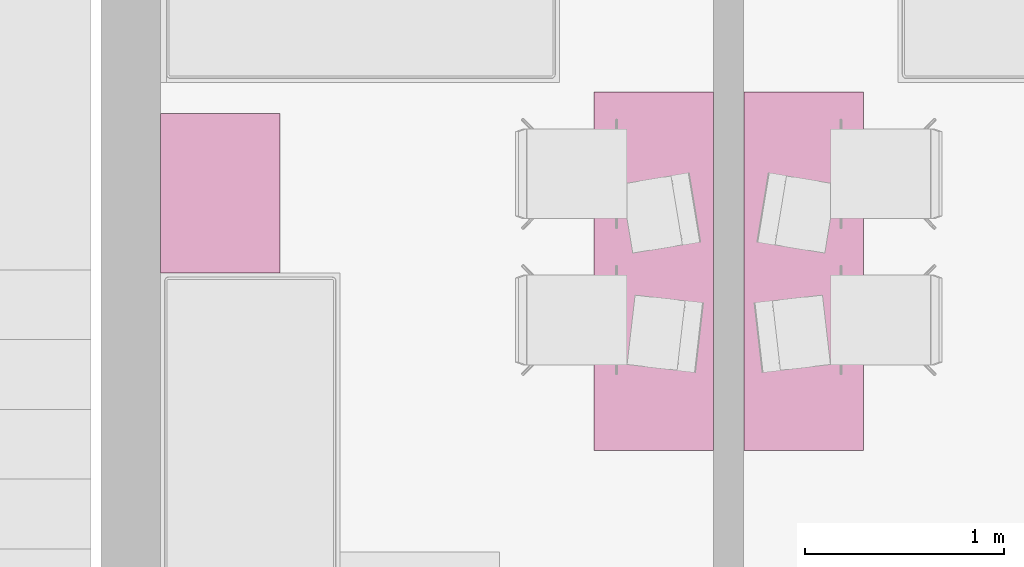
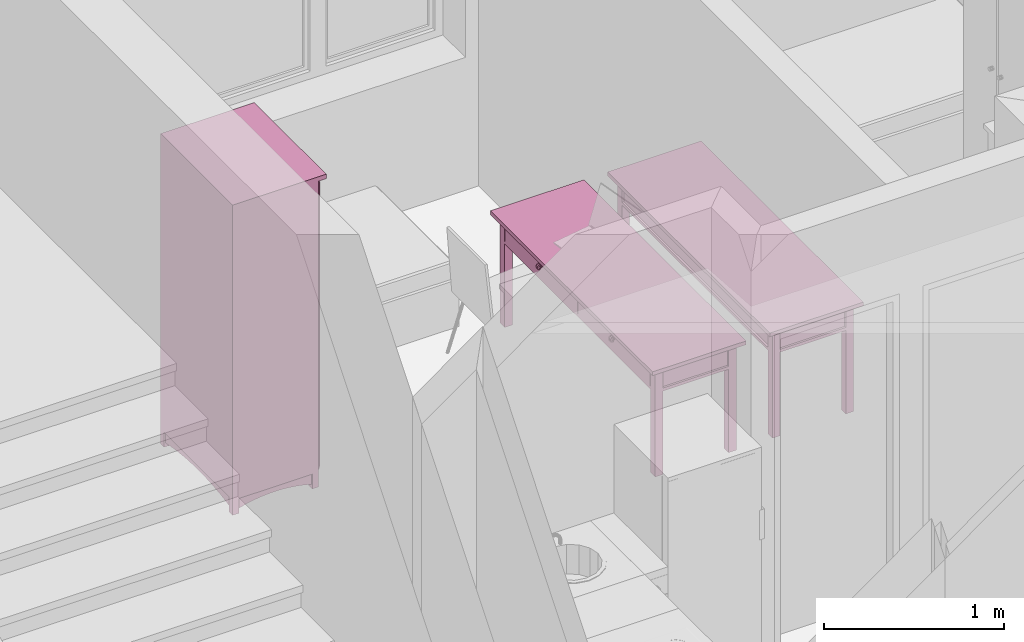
# One storey, part 134 of 172: 3 furnishings.
"""IFC2X3 building model written with IfcOpenShell, lengths in millimetres."""

from ifc_helpers import new_model, entity, si_unit, converted_unit, money_unit, direction, frame, origin_with_axes, place, context, subcontext, project, spatial, faceted_brep, source, transform, mapped, material, material_list, type_object, element, save


model = new_model("IFC2X3")

# Units and contexts
model_context = context("Model", 3, precision=1e-05, world=origin_with_axes(), true_north=direction((0.0, 1.0)))
body_context = subcontext(model_context, "Body", "Model", "MODEL_VIEW")
ifc_project = project(units=[si_unit("LENGTHUNIT", "METRE", prefix="MILLI"), si_unit("AREAUNIT", "SQUARE_METRE"), si_unit("VOLUMEUNIT", "CUBIC_METRE"), converted_unit("PLANEANGLEUNIT", "DEGREE", entity("IfcPlaneAngleMeasure", 0.0174532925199), si_unit("PLANEANGLEUNIT", "RADIAN"), dimensions=[0, 0, 0, 0, 0, 0, 0]), si_unit("SOLIDANGLEUNIT", "STERADIAN"), money_unit("USD"), converted_unit("TIMEUNIT", "Year", entity("IfcTimeMeasure", 31556926.0), si_unit("TIMEUNIT", "SECOND"), dimensions=[0, 0, 0, 0, 0, 0, 0]), si_unit("MASSUNIT", "GRAM"), si_unit("THERMODYNAMICTEMPERATUREUNIT", "DEGREE_CELSIUS"), si_unit("LUMINOUSINTENSITYUNIT", "LUMEN")], contexts=[model_context])

# Site, building, storey
site_placement = place(None, origin_with_axes())
site = spatial("IfcSite", under=ifc_project, at=site_placement, Name="Site", CompositionType="ELEMENT")
building_placement = place(site_placement, origin_with_axes())
building = spatial("IfcBuilding", under=site, at=building_placement, Name="Building", CompositionType="ELEMENT")
storey_placement = place(building_placement, frame((0.0, 0.0, 3200.0), z_axis=(0.0, 0.0, 1.0), x_axis=(1.0, 0.0, 0.0)))
storey = spatial("IfcBuildingStorey", under=building, at=storey_placement, Name="3KORRUS", CompositionType="ELEMENT", Elevation=3200.0)

# Furnishings
ifc_material = material(Name="Background")
ifc_material_list = material_list([ifc_material])
furnishing_element_type_1 = type_object("IfcFurnishingElementType", Name="Cupboard 19")
shared_shape_1 = source(origin_with_axes(), body_context, "Body", "Brep", [
    faceted_brep([(780.0, 600.0, 120.0), (780.0, 600.0, 2050.0), (780.0, 580.0, 2050.0), (780.0, 580.0, 120.0), (20.0, 600.0, 120.0), (20.0, 600.0, 2050.0), (20.0, 580.0, 2050.0), (20.0, 580.0, 120.0)], [[[0, 1, 2, 3]], [[4, 5, 1, 0]], [[1, 5, 6, 2]], [[3, 2, 6, 7]], [[0, 3, 7, 4]], [[7, 6, 5, 4]]]),
    faceted_brep([(0.0, 50.0, 100.0), (0.0, 600.0, 100.0), (20.0, 600.0, 100.0), (20.0, 50.0, 100.0), (0.0, 50.0, 2070.0), (0.0, 600.0, 2070.0), (20.0, 600.0, 2070.0), (20.0, 50.0, 2070.0)], [[[0, 1, 2, 3]], [[0, 4, 5, 1]], [[1, 5, 6, 2]], [[2, 6, 7, 3]], [[3, 7, 4, 0]], [[7, 6, 5, 4]]]),
    faceted_brep([(780.0, 50.0, 100.0), (780.0, 600.0, 100.0), (800.0, 600.0, 100.0), (800.0, 50.0, 100.0), (780.0, 50.0, 2070.0), (780.0, 600.0, 2070.0), (800.0, 600.0, 2070.0), (800.0, 50.0, 2070.0)], [[[0, 1, 2, 3]], [[0, 4, 5, 1]], [[1, 5, 6, 2]], [[2, 6, 7, 3]], [[3, 7, 4, 0]], [[7, 6, 5, 4]]]),
    faceted_brep([(20.0, 50.0, 100.0), (20.0, 600.0, 100.0), (780.0, 600.0, 100.0), (780.0, 50.0, 100.0), (20.0, 50.0, 120.0), (20.0, 600.0, 120.0), (780.0, 600.0, 120.0), (780.0, 50.0, 120.0)], [[[0, 1, 2, 3]], [[0, 4, 5, 1]], [[1, 5, 6, 2]], [[2, 6, 7, 3]], [[3, 7, 4, 0]], [[7, 6, 5, 4]]]),
    faceted_brep([(20.0, 50.0, 2050.0), (20.0, 600.0, 2050.0), (780.0, 600.0, 2050.0), (780.0, 50.0, 2050.0), (20.0, 50.0, 2070.0), (20.0, 600.0, 2070.0), (780.0, 600.0, 2070.0), (780.0, 50.0, 2070.0)], [[[0, 1, 2, 3]], [[0, 4, 5, 1]], [[1, 5, 6, 2]], [[2, 6, 7, 3]], [[3, 7, 4, 0]], [[7, 6, 5, 4]]]),
    faceted_brep([(0.0, 600.0, 2070.0), (0.0, 0.0, 2070.0), (0.0, 0.0, 2100.0), (0.0, 600.0, 2100.0), (800.0, 600.0, 2070.0), (800.0, 0.0, 2070.0), (800.0, 0.0, 2100.0), (800.0, 600.0, 2100.0)], [[[0, 1, 2, 3]], [[0, 4, 5, 1]], [[1, 5, 6, 2]], [[3, 2, 6, 7]], [[4, 0, 3, 7]], [[5, 4, 7, 6]]]),
    faceted_brep([(760.0, 590.0, 25.0), (760.0, 570.0, 25.0), (640.962, 570.0, 45.8), (640.962, 590.0, 45.8), (760.0, 590.0, 100.0), (760.0, 570.0, 100.0), (40.0, 570.0, 100.0), (40.0, 570.0, 25.0), (159.038, 570.0, 45.8), (279.23, 570.0, 58.32), (400.0, 570.0, 62.5), (520.77, 570.0, 58.32), (520.77, 590.0, 58.32), (400.0, 590.0, 62.5), (279.23, 590.0, 58.32), (159.038, 590.0, 45.8), (40.0, 590.0, 25.0), (40.0, 590.0, 100.0)], [[[0, 1, 2, 3]], [[4, 5, 1, 0]], [[1, 5, 6, 7, 8, 9, 10, 11, 2]], [[3, 2, 11, 12]], [[0, 3, 12, 13, 14, 15, 16, 17, 4]], [[17, 6, 5, 4]], [[16, 7, 6, 17]], [[15, 8, 7, 16]], [[14, 9, 8, 15]], [[13, 10, 9, 14]], [[12, 11, 10, 13]]]),
    faceted_brep([(760.0, 80.0, 25.0), (760.0, 60.0, 25.0), (640.962, 60.0, 45.8), (640.962, 80.0, 45.8), (760.0, 80.0, 100.0), (760.0, 60.0, 100.0), (40.0, 60.0, 100.0), (40.0, 60.0, 25.0), (159.038, 60.0, 45.8), (279.23, 60.0, 58.32), (400.0, 60.0, 62.5), (520.77, 60.0, 58.32), (520.77, 80.0, 58.32), (400.0, 80.0, 62.5), (279.23, 80.0, 58.32), (159.038, 80.0, 45.8), (40.0, 80.0, 25.0), (40.0, 80.0, 100.0)], [[[0, 1, 2, 3]], [[4, 5, 1, 0]], [[1, 5, 6, 7, 8, 9, 10, 11, 2]], [[3, 2, 11, 12]], [[0, 3, 12, 13, 14, 15, 16, 17, 4]], [[17, 6, 5, 4]], [[16, 7, 6, 17]], [[15, 8, 7, 16]], [[14, 9, 8, 15]], [[13, 10, 9, 14]], [[12, 11, 10, 13]]]),
    faceted_brep([(790.0, 90.0, 25.0), (770.0, 90.0, 25.0), (770.0, 141.266, 38.072), (790.0, 141.266, 38.072), (790.0, 90.0, 100.0), (770.0, 90.0, 100.0), (770.0, 560.0, 100.0), (770.0, 560.0, 25.0), (770.0, 508.734, 38.072), (770.0, 456.752, 47.92), (770.0, 404.257, 54.508), (770.0, 351.453, 57.808), (770.0, 298.547, 57.808), (770.0, 245.743, 54.508), (770.0, 193.248, 47.92), (790.0, 193.248, 47.92), (790.0, 245.743, 54.508), (790.0, 298.547, 57.808), (790.0, 351.453, 57.808), (790.0, 404.257, 54.508), (790.0, 456.752, 47.92), (790.0, 508.734, 38.072), (790.0, 560.0, 25.0), (790.0, 560.0, 100.0)], [[[0, 1, 2, 3]], [[4, 5, 1, 0]], [[1, 5, 6, 7, 8, 9, 10, 11, 12, 13, 14, 2]], [[3, 2, 14, 15]], [[0, 3, 15, 16, 17, 18, 19, 20, 21, 22, 23, 4]], [[23, 6, 5, 4]], [[22, 7, 6, 23]], [[21, 8, 7, 22]], [[20, 9, 8, 21]], [[19, 10, 9, 20]], [[18, 11, 10, 19]], [[17, 12, 11, 18]], [[16, 13, 12, 17]], [[15, 14, 13, 16]]]),
    faceted_brep([(30.0, 90.0, 25.0), (10.0, 90.0, 25.0), (10.0, 141.266, 38.072), (30.0, 141.266, 38.072), (30.0, 90.0, 100.0), (10.0, 90.0, 100.0), (10.0, 560.0, 100.0), (10.0, 560.0, 25.0), (10.0, 508.734, 38.072), (10.0, 456.752, 47.92), (10.0, 404.257, 54.508), (10.0, 351.453, 57.808), (10.0, 298.547, 57.808), (10.0, 245.743, 54.508), (10.0, 193.248, 47.92), (30.0, 193.248, 47.92), (30.0, 245.743, 54.508), (30.0, 298.547, 57.808), (30.0, 351.453, 57.808), (30.0, 404.257, 54.508), (30.0, 456.752, 47.92), (30.0, 508.734, 38.072), (30.0, 560.0, 25.0), (30.0, 560.0, 100.0)], [[[0, 1, 2, 3]], [[4, 5, 1, 0]], [[1, 5, 6, 7, 8, 9, 10, 11, 12, 13, 14, 2]], [[3, 2, 14, 15]], [[0, 3, 15, 16, 17, 18, 19, 20, 21, 22, 23, 4]], [[23, 6, 5, 4]], [[22, 7, 6, 23]], [[21, 8, 7, 22]], [[20, 9, 8, 21]], [[19, 10, 9, 20]], [[18, 11, 10, 19]], [[17, 12, 11, 18]], [[16, 13, 12, 17]], [[15, 14, 13, 16]]]),
    faceted_brep([(760.0, 560.0, 0.0), (760.0, 560.0, 100.0), (760.0, 600.0, 100.0), (760.0, 600.0, 0.0), (800.0, 560.0, 0.0), (800.0, 560.0, 100.0), (800.0, 600.0, 100.0), (800.0, 600.0, 0.0)], [[[0, 1, 2, 3]], [[4, 5, 1, 0]], [[1, 5, 6, 2]], [[3, 2, 6, 7]], [[0, 3, 7, 4]], [[7, 6, 5, 4]]]),
    faceted_brep([(0.0, 560.0, 0.0), (0.0, 560.0, 100.0), (0.0, 600.0, 100.0), (0.0, 600.0, 0.0), (40.0, 560.0, 0.0), (40.0, 560.0, 100.0), (40.0, 600.0, 100.0), (40.0, 600.0, 0.0)], [[[0, 1, 2, 3]], [[4, 5, 1, 0]], [[1, 5, 6, 2]], [[3, 2, 6, 7]], [[0, 3, 7, 4]], [[7, 6, 5, 4]]]),
    faceted_brep([(760.0, 50.0, 0.0), (760.0, 50.0, 100.0), (760.0, 90.0, 100.0), (760.0, 90.0, 0.0), (800.0, 50.0, 0.0), (800.0, 50.0, 100.0), (800.0, 90.0, 100.0), (800.0, 90.0, 0.0)], [[[0, 1, 2, 3]], [[4, 5, 1, 0]], [[1, 5, 6, 2]], [[3, 2, 6, 7]], [[0, 3, 7, 4]], [[7, 6, 5, 4]]]),
    faceted_brep([(0.0, 50.0, 0.0), (0.0, 50.0, 100.0), (0.0, 90.0, 100.0), (0.0, 90.0, 0.0), (40.0, 50.0, 0.0), (40.0, 50.0, 100.0), (40.0, 90.0, 100.0), (40.0, 90.0, 0.0)], [[[0, 1, 2, 3]], [[4, 5, 1, 0]], [[1, 5, 6, 2]], [[3, 2, 6, 7]], [[0, 3, 7, 4]], [[7, 6, 5, 4]]]),
    faceted_brep([(780.0, 580.0, 587.5), (780.0, 580.0, 607.5), (780.0, 50.0, 607.5), (780.0, 50.0, 587.5), (20.0, 580.0, 587.5), (20.0, 580.0, 607.5), (20.0, 50.0, 607.5), (20.0, 50.0, 587.5)], [[[0, 1, 2, 3]], [[4, 5, 1, 0]], [[1, 5, 6, 2]], [[3, 2, 6, 7]], [[0, 3, 7, 4]], [[7, 6, 5, 4]]]),
    faceted_brep([(780.0, 580.0, 1075.0), (780.0, 580.0, 1095.0), (780.0, 50.0, 1095.0), (780.0, 50.0, 1075.0), (20.0, 580.0, 1075.0), (20.0, 580.0, 1095.0), (20.0, 50.0, 1095.0), (20.0, 50.0, 1075.0)], [[[0, 1, 2, 3]], [[4, 5, 1, 0]], [[1, 5, 6, 2]], [[3, 2, 6, 7]], [[0, 3, 7, 4]], [[7, 6, 5, 4]]]),
    faceted_brep([(780.0, 580.0, 1562.5), (780.0, 580.0, 1582.5), (780.0, 50.0, 1582.5), (780.0, 50.0, 1562.5), (20.0, 580.0, 1562.5), (20.0, 580.0, 1582.5), (20.0, 50.0, 1582.5), (20.0, 50.0, 1562.5)], [[[0, 1, 2, 3]], [[4, 5, 1, 0]], [[1, 5, 6, 2]], [[3, 2, 6, 7]], [[0, 3, 7, 4]], [[7, 6, 5, 4]]]),
    faceted_brep([(789.5, 50.0, 110.5), (400.5, 50.0, 110.5), (400.5, 50.0, 2059.5), (789.5, 50.0, 2059.5), (789.5, 40.0, 110.5), (400.5, 40.0, 110.5), (400.5, 40.0, 2059.5), (789.5, 40.0, 2059.5), (779.5, 30.0, 120.5), (410.5, 30.0, 120.5), (410.5, 30.0, 2049.5), (779.5, 30.0, 2049.5)], [[[0, 1, 2, 3]], [[0, 4, 5, 1]], [[1, 5, 6, 2]], [[2, 6, 7, 3]], [[3, 7, 4, 0]], [[4, 8, 9, 5]], [[5, 9, 10, 6]], [[6, 10, 11, 7]], [[7, 11, 8, 4]], [[10, 9, 8, 11]]]),
    faceted_brep([(399.5, 50.0, 110.5), (10.5, 50.0, 110.5), (10.5, 50.0, 2059.5), (399.5, 50.0, 2059.5), (399.5, 40.0, 110.5), (10.5, 40.0, 110.5), (10.5, 40.0, 2059.5), (399.5, 40.0, 2059.5), (389.5, 30.0, 120.5), (20.5, 30.0, 120.5), (20.5, 30.0, 2049.5), (389.5, 30.0, 2049.5)], [[[0, 1, 2, 3]], [[0, 4, 5, 1]], [[1, 5, 6, 2]], [[2, 6, 7, 3]], [[3, 7, 4, 0]], [[4, 8, 9, 5]], [[5, 9, 10, 6]], [[6, 10, 11, 7]], [[7, 11, 8, 4]], [[10, 9, 8, 11]]]),
    faceted_brep([(339.608, 30.0, 954.0), (338.0, 30.0, 960.0), (339.608, 30.0, 966.0), (344.0, 30.0, 970.392), (350.0, 30.0, 972.0), (356.0, 30.0, 970.392), (360.392, 30.0, 966.0), (362.0, 30.0, 960.0), (360.392, 30.0, 954.0), (356.0, 30.0, 949.608), (350.0, 30.0, 948.0), (344.0, 30.0, 949.608), (339.608, 5.0, 954.0), (338.0, 5.0, 960.0), (339.608, 5.0, 966.0), (344.0, 5.0, 970.392), (350.0, 5.0, 972.0), (356.0, 5.0, 970.392), (360.392, 5.0, 966.0), (362.0, 5.0, 960.0), (360.392, 5.0, 954.0), (356.0, 5.0, 949.608), (350.0, 5.0, 948.0), (344.0, 5.0, 949.608)], [[[0, 1, 2, 3, 4, 5, 6, 7, 8, 9, 10, 11]], [[0, 12, 13, 1]], [[1, 13, 14, 2]], [[2, 14, 15, 3]], [[3, 15, 16, 4]], [[4, 16, 17, 5]], [[5, 17, 18, 6]], [[6, 18, 19, 7]], [[7, 19, 20, 8]], [[8, 20, 21, 9]], [[9, 21, 22, 10]], [[10, 22, 23, 11]], [[11, 23, 12, 0]], [[12, 23, 22, 21, 20, 19, 18, 17, 16, 15, 14, 13]]]),
    faceted_brep([(460.392, 30.0, 954.0), (456.0, 30.0, 949.608), (450.0, 30.0, 948.0), (444.0, 30.0, 949.608), (439.608, 30.0, 954.0), (438.0, 30.0, 960.0), (439.608, 30.0, 966.0), (444.0, 30.0, 970.392), (450.0, 30.0, 972.0), (456.0, 30.0, 970.392), (460.392, 30.0, 966.0), (462.0, 30.0, 960.0), (460.392, 5.0, 954.0), (456.0, 5.0, 949.608), (450.0, 5.0, 948.0), (444.0, 5.0, 949.608), (439.608, 5.0, 954.0), (438.0, 5.0, 960.0), (439.608, 5.0, 966.0), (444.0, 5.0, 970.392), (450.0, 5.0, 972.0), (456.0, 5.0, 970.392), (460.392, 5.0, 966.0), (462.0, 5.0, 960.0)], [[[0, 1, 2, 3, 4, 5, 6, 7, 8, 9, 10, 11]], [[1, 0, 12, 13]], [[2, 1, 13, 14]], [[3, 2, 14, 15]], [[4, 3, 15, 16]], [[5, 4, 16, 17]], [[6, 5, 17, 18]], [[7, 6, 18, 19]], [[8, 7, 19, 20]], [[9, 8, 20, 21]], [[10, 9, 21, 22]], [[11, 10, 22, 23]], [[0, 11, 23, 12]], [[12, 23, 22, 21, 20, 19, 18, 17, 16, 15, 14, 13]]]),
])
furnishing_1_placement = place(storey_placement, frame((-5390.29670331, -7216.37850445, 0.0), z_axis=(0.0, 0.0, 1.0), x_axis=(0.0, 1.0, 0.0)))
element("IfcFurnishingElement", 1, at=furnishing_1_placement, inside=storey, type_object=furnishing_element_type_1, material=ifc_material_list, Name="FU - 014", context=body_context, shape_type="MappedRepresentation", body=[
    mapped(shared_shape_1, transform((0.0, 0.0, 0.0))),
])
furnishing_element_type_2 = type_object("IfcFurnishingElementType", Name="Rectangular Table 01 19")
shared_shape_2 = source(origin_with_axes(), body_context, "Body", "Brep", [
    faceted_brep([(-90.0, 40.0, 0.0), (-90.0, 90.0, 0.0), (-40.0, 90.0, 0.0), (-40.0, 40.0, 0.0), (-90.0, 40.0, 725.0), (-90.0, 90.0, 725.0), (-40.0, 90.0, 725.0), (-40.0, 40.0, 725.0)], [[[0, 1, 2, 3]], [[0, 4, 5, 1]], [[1, 5, 6, 2]], [[2, 6, 7, 3]], [[3, 7, 4, 0]], [[7, 6, 5, 4]]]),
    faceted_brep([(-1760.0, 40.0, 0.0), (-1760.0, 90.0, 0.0), (-1710.0, 90.0, 0.0), (-1710.0, 40.0, 0.0), (-1760.0, 40.0, 725.0), (-1760.0, 90.0, 725.0), (-1710.0, 90.0, 725.0), (-1710.0, 40.0, 725.0)], [[[0, 1, 2, 3]], [[0, 4, 5, 1]], [[1, 5, 6, 2]], [[2, 6, 7, 3]], [[3, 7, 4, 0]], [[7, 6, 5, 4]]]),
    faceted_brep([(-90.0, 510.0, 0.0), (-90.0, 560.0, 0.0), (-40.0, 560.0, 0.0), (-40.0, 510.0, 0.0), (-90.0, 510.0, 725.0), (-90.0, 560.0, 725.0), (-40.0, 560.0, 725.0), (-40.0, 510.0, 725.0)], [[[0, 1, 2, 3]], [[0, 4, 5, 1]], [[1, 5, 6, 2]], [[2, 6, 7, 3]], [[3, 7, 4, 0]], [[7, 6, 5, 4]]]),
    faceted_brep([(-1760.0, 510.0, 0.0), (-1760.0, 560.0, 0.0), (-1710.0, 560.0, 0.0), (-1710.0, 510.0, 0.0), (-1760.0, 510.0, 725.0), (-1760.0, 560.0, 725.0), (-1710.0, 560.0, 725.0), (-1710.0, 510.0, 725.0)], [[[0, 1, 2, 3]], [[0, 4, 5, 1]], [[1, 5, 6, 2]], [[2, 6, 7, 3]], [[3, 7, 4, 0]], [[7, 6, 5, 4]]]),
    faceted_brep([(-1760.0, 40.0, 565.0), (-1760.0, 560.0, 565.0), (-40.0, 560.0, 565.0), (-40.0, 40.0, 565.0), (-1760.0, 40.0, 585.0), (-1760.0, 560.0, 585.0), (-40.0, 560.0, 585.0), (-40.0, 40.0, 585.0)], [[[0, 1, 2, 3]], [[0, 4, 5, 1]], [[1, 5, 6, 2]], [[2, 6, 7, 3]], [[3, 7, 4, 0]], [[7, 6, 5, 4]]]),
    faceted_brep([(-1710.0, 52.5, 585.0), (-1710.0, 77.5, 585.0), (-90.0, 77.5, 585.0), (-90.0, 52.5, 585.0), (-1710.0, 52.5, 745.0), (-1710.0, 77.5, 745.0), (-90.0, 77.5, 745.0), (-90.0, 52.5, 745.0)], [[[0, 1, 2, 3]], [[0, 4, 5, 1]], [[1, 5, 6, 2]], [[2, 6, 7, 3]], [[3, 7, 4, 0]], [[7, 6, 5, 4]]]),
    faceted_brep([(-77.5, 90.0, 585.0), (-77.5, 510.0, 585.0), (-52.5, 510.0, 585.0), (-52.5, 90.0, 585.0), (-77.5, 90.0, 745.0), (-77.5, 510.0, 745.0), (-52.5, 510.0, 745.0), (-52.5, 90.0, 745.0)], [[[0, 1, 2, 3]], [[0, 4, 5, 1]], [[1, 5, 6, 2]], [[2, 6, 7, 3]], [[3, 7, 4, 0]], [[7, 6, 5, 4]]]),
    faceted_brep([(-90.0, 547.5, 585.0), (-90.0, 522.5, 585.0), (-1710.0, 522.5, 585.0), (-1710.0, 547.5, 585.0), (-90.0, 547.5, 745.0), (-90.0, 522.5, 745.0), (-1710.0, 522.5, 745.0), (-1710.0, 547.5, 745.0)], [[[0, 1, 2, 3]], [[0, 4, 5, 1]], [[1, 5, 6, 2]], [[2, 6, 7, 3]], [[3, 7, 4, 0]], [[7, 6, 5, 4]]]),
    faceted_brep([(-1722.5, 510.0, 585.0), (-1722.5, 90.0, 585.0), (-1747.5, 90.0, 585.0), (-1747.5, 510.0, 585.0), (-1722.5, 510.0, 745.0), (-1722.5, 90.0, 745.0), (-1747.5, 90.0, 745.0), (-1747.5, 510.0, 745.0)], [[[0, 1, 2, 3]], [[0, 4, 5, 1]], [[1, 5, 6, 2]], [[2, 6, 7, 3]], [[3, 7, 4, 0]], [[7, 6, 5, 4]]]),
    faceted_brep([(-897.5, 40.0, 585.0), (-897.5, 60.0, 585.0), (-95.0, 60.0, 585.0), (-95.0, 40.0, 585.0), (-897.5, 40.0, 745.0), (-897.5, 60.0, 745.0), (-95.0, 60.0, 745.0), (-95.0, 40.0, 745.0)], [[[0, 1, 2, 3]], [[0, 4, 5, 1]], [[1, 5, 6, 2]], [[2, 6, 7, 3]], [[3, 7, 4, 0]], [[7, 6, 5, 4]]]),
    faceted_brep([(-1705.0, 40.0, 585.0), (-1705.0, 60.0, 585.0), (-902.5, 60.0, 585.0), (-902.5, 40.0, 585.0), (-1705.0, 40.0, 745.0), (-1705.0, 60.0, 745.0), (-902.5, 60.0, 745.0), (-902.5, 40.0, 745.0)], [[[0, 1, 2, 3]], [[0, 4, 5, 1]], [[1, 5, 6, 2]], [[2, 6, 7, 3]], [[3, 7, 4, 0]], [[7, 6, 5, 4]]]),
    faceted_brep([(-504.91, 40.0, 660.0), (-506.25, 40.0, 665.0), (-504.91, 40.0, 670.0), (-501.25, 40.0, 673.66), (-496.25, 40.0, 675.0), (-491.25, 40.0, 673.66), (-487.59, 40.0, 670.0), (-486.25, 40.0, 665.0), (-487.59, 40.0, 660.0), (-491.25, 40.0, 656.34), (-496.25, 40.0, 655.0), (-501.25, 40.0, 656.34), (-504.91, 25.0, 660.0), (-506.25, 25.0, 665.0), (-504.91, 25.0, 670.0), (-501.25, 25.0, 673.66), (-496.25, 25.0, 675.0), (-491.25, 25.0, 673.66), (-487.59, 25.0, 670.0), (-486.25, 25.0, 665.0), (-487.59, 25.0, 660.0), (-491.25, 25.0, 656.34), (-496.25, 25.0, 655.0), (-501.25, 25.0, 656.34)], [[[0, 1, 2, 3, 4, 5, 6, 7, 8, 9, 10, 11]], [[0, 12, 13, 1]], [[1, 13, 14, 2]], [[2, 14, 15, 3]], [[3, 15, 16, 4]], [[4, 16, 17, 5]], [[5, 17, 18, 6]], [[6, 18, 19, 7]], [[7, 19, 20, 8]], [[8, 20, 21, 9]], [[9, 21, 22, 10]], [[10, 22, 23, 11]], [[11, 23, 12, 0]], [[12, 23, 22, 21, 20, 19, 18, 17, 16, 15, 14, 13]]]),
    faceted_brep([(-506.25, 12.01, 665.0), (-504.91, 12.01, 660.0), (-496.25, 10.0, 665.0), (-513.571, 17.5, 665.0), (-511.25, 17.5, 656.34), (-501.25, 12.01, 656.34), (-504.91, 12.01, 670.0), (-516.25, 25.0, 665.0), (-513.571, 25.0, 655.0), (-504.91, 17.5, 650.0), (-511.25, 17.5, 673.66), (-496.25, 12.01, 655.0), (-501.25, 12.01, 673.66), (-513.571, 25.0, 675.0), (-506.25, 25.0, 682.321), (-496.25, 25.0, 685.0), (-486.25, 25.0, 682.321), (-478.929, 25.0, 675.0), (-476.25, 25.0, 665.0), (-478.929, 25.0, 655.0), (-486.25, 25.0, 647.679), (-496.25, 25.0, 645.0), (-506.25, 25.0, 647.679), (-496.25, 17.5, 647.679), (-504.91, 17.5, 680.0), (-491.25, 12.01, 656.34), (-496.25, 12.01, 675.0), (-496.25, 17.5, 682.321), (-487.59, 17.5, 680.0), (-481.25, 17.5, 673.66), (-478.929, 17.5, 665.0), (-481.25, 17.5, 656.34), (-487.59, 17.5, 650.0), (-487.59, 12.01, 660.0), (-491.25, 12.01, 673.66), (-487.59, 12.01, 670.0), (-486.25, 12.01, 665.0)], [[[0, 1, 2]], [[3, 4, 1, 0]], [[1, 5, 2]], [[6, 0, 2]], [[7, 8, 4, 3]], [[4, 9, 5, 1]], [[10, 3, 0, 6]], [[5, 11, 2]], [[12, 6, 2]], [[8, 7, 13, 14, 15, 16, 17, 18, 19, 20, 21, 22]], [[8, 22, 9, 4]], [[13, 7, 3, 10]], [[9, 23, 11, 5]], [[24, 10, 6, 12]], [[11, 25, 2]], [[26, 12, 2]], [[14, 13, 10, 24]], [[15, 14, 24, 27]], [[16, 15, 27, 28]], [[17, 16, 28, 29]], [[18, 17, 29, 30]], [[19, 18, 30, 31]], [[20, 19, 31, 32]], [[21, 20, 32, 23]], [[22, 21, 23, 9]], [[23, 32, 25, 11]], [[27, 24, 12, 26]], [[25, 33, 2]], [[34, 26, 2]], [[28, 27, 26, 34]], [[29, 28, 34, 35]], [[30, 29, 35, 36]], [[31, 30, 36, 33]], [[32, 31, 33, 25]], [[33, 36, 2]], [[35, 34, 2]], [[36, 35, 2]]]),
    faceted_brep([(-1312.41, 40.0, 660.0), (-1313.75, 40.0, 665.0), (-1312.41, 40.0, 670.0), (-1308.75, 40.0, 673.66), (-1303.75, 40.0, 675.0), (-1298.75, 40.0, 673.66), (-1295.09, 40.0, 670.0), (-1293.75, 40.0, 665.0), (-1295.09, 40.0, 660.0), (-1298.75, 40.0, 656.34), (-1303.75, 40.0, 655.0), (-1308.75, 40.0, 656.34), (-1312.41, 25.0, 660.0), (-1313.75, 25.0, 665.0), (-1312.41, 25.0, 670.0), (-1308.75, 25.0, 673.66), (-1303.75, 25.0, 675.0), (-1298.75, 25.0, 673.66), (-1295.09, 25.0, 670.0), (-1293.75, 25.0, 665.0), (-1295.09, 25.0, 660.0), (-1298.75, 25.0, 656.34), (-1303.75, 25.0, 655.0), (-1308.75, 25.0, 656.34)], [[[0, 1, 2, 3, 4, 5, 6, 7, 8, 9, 10, 11]], [[0, 12, 13, 1]], [[1, 13, 14, 2]], [[2, 14, 15, 3]], [[3, 15, 16, 4]], [[4, 16, 17, 5]], [[5, 17, 18, 6]], [[6, 18, 19, 7]], [[7, 19, 20, 8]], [[8, 20, 21, 9]], [[9, 21, 22, 10]], [[10, 22, 23, 11]], [[11, 23, 12, 0]], [[12, 23, 22, 21, 20, 19, 18, 17, 16, 15, 14, 13]]]),
    faceted_brep([(-1313.75, 12.01, 665.0), (-1312.41, 12.01, 660.0), (-1303.75, 10.0, 665.0), (-1321.071, 17.5, 665.0), (-1318.75, 17.5, 656.34), (-1308.75, 12.01, 656.34), (-1312.41, 12.01, 670.0), (-1323.75, 25.0, 665.0), (-1321.071, 25.0, 655.0), (-1312.41, 17.5, 650.0), (-1318.75, 17.5, 673.66), (-1303.75, 12.01, 655.0), (-1308.75, 12.01, 673.66), (-1321.071, 25.0, 675.0), (-1313.75, 25.0, 682.321), (-1303.75, 25.0, 685.0), (-1293.75, 25.0, 682.321), (-1286.429, 25.0, 675.0), (-1283.75, 25.0, 665.0), (-1286.429, 25.0, 655.0), (-1293.75, 25.0, 647.679), (-1303.75, 25.0, 645.0), (-1313.75, 25.0, 647.679), (-1303.75, 17.5, 647.679), (-1312.41, 17.5, 680.0), (-1298.75, 12.01, 656.34), (-1303.75, 12.01, 675.0), (-1303.75, 17.5, 682.321), (-1295.09, 17.5, 680.0), (-1288.75, 17.5, 673.66), (-1286.429, 17.5, 665.0), (-1288.75, 17.5, 656.34), (-1295.09, 17.5, 650.0), (-1295.09, 12.01, 660.0), (-1298.75, 12.01, 673.66), (-1295.09, 12.01, 670.0), (-1293.75, 12.01, 665.0)], [[[0, 1, 2]], [[3, 4, 1, 0]], [[1, 5, 2]], [[6, 0, 2]], [[7, 8, 4, 3]], [[4, 9, 5, 1]], [[10, 3, 0, 6]], [[5, 11, 2]], [[12, 6, 2]], [[8, 7, 13, 14, 15, 16, 17, 18, 19, 20, 21, 22]], [[8, 22, 9, 4]], [[13, 7, 3, 10]], [[9, 23, 11, 5]], [[24, 10, 6, 12]], [[11, 25, 2]], [[26, 12, 2]], [[14, 13, 10, 24]], [[15, 14, 24, 27]], [[16, 15, 27, 28]], [[17, 16, 28, 29]], [[18, 17, 29, 30]], [[19, 18, 30, 31]], [[20, 19, 31, 32]], [[21, 20, 32, 23]], [[22, 21, 23, 9]], [[23, 32, 25, 11]], [[27, 24, 12, 26]], [[25, 33, 2]], [[34, 26, 2]], [[28, 27, 26, 34]], [[29, 28, 34, 35]], [[30, 29, 35, 36]], [[31, 30, 36, 33]], [[32, 31, 33, 25]], [[33, 36, 2]], [[35, 34, 2]], [[36, 35, 2]]]),
    faceted_brep([(-1800.0, 0.0, 725.0), (-1800.0, 600.0, 725.0), (0.0, 600.0, 725.0), (0.0, 0.0, 725.0), (-1800.0, 0.0, 750.0), (-1800.0, 600.0, 750.0), (0.0, 600.0, 750.0), (0.0, 0.0, 750.0)], [[[0, 1, 2, 3]], [[0, 4, 5, 1]], [[1, 5, 6, 2]], [[2, 6, 7, 3]], [[3, 7, 4, 0]], [[7, 6, 5, 4]]]),
])
furnishing_2_placement = place(storey_placement, frame((-2464.84988372, -6307.76701594, 0.0), z_axis=(0.0, 0.0, 1.0), x_axis=(0.0, 1.0, 0.0)))
element("IfcFurnishingElement", 2, at=furnishing_2_placement, inside=storey, type_object=furnishing_element_type_2, material=ifc_material_list, Name="FU - 011", context=body_context, shape_type="MappedRepresentation", body=[
    mapped(shared_shape_2, transform((0.0, 0.0, 0.0))),
])
shared_shape_3 = source(origin_with_axes(), body_context, "Body", "Brep", [
    faceted_brep([(90.0, 40.0, 0.0), (40.0, 40.0, 0.0), (40.0, 90.0, 0.0), (90.0, 90.0, 0.0), (90.0, 40.0, 725.0), (40.0, 40.0, 725.0), (40.0, 90.0, 725.0), (90.0, 90.0, 725.0)], [[[0, 1, 2, 3]], [[1, 0, 4, 5]], [[2, 1, 5, 6]], [[3, 2, 6, 7]], [[0, 3, 7, 4]], [[5, 4, 7, 6]]]),
    faceted_brep([(1760.0, 40.0, 0.0), (1710.0, 40.0, 0.0), (1710.0, 90.0, 0.0), (1760.0, 90.0, 0.0), (1760.0, 40.0, 725.0), (1710.0, 40.0, 725.0), (1710.0, 90.0, 725.0), (1760.0, 90.0, 725.0)], [[[0, 1, 2, 3]], [[1, 0, 4, 5]], [[2, 1, 5, 6]], [[3, 2, 6, 7]], [[0, 3, 7, 4]], [[5, 4, 7, 6]]]),
    faceted_brep([(90.0, 510.0, 0.0), (40.0, 510.0, 0.0), (40.0, 560.0, 0.0), (90.0, 560.0, 0.0), (90.0, 510.0, 725.0), (40.0, 510.0, 725.0), (40.0, 560.0, 725.0), (90.0, 560.0, 725.0)], [[[0, 1, 2, 3]], [[1, 0, 4, 5]], [[2, 1, 5, 6]], [[3, 2, 6, 7]], [[0, 3, 7, 4]], [[5, 4, 7, 6]]]),
    faceted_brep([(1760.0, 510.0, 0.0), (1710.0, 510.0, 0.0), (1710.0, 560.0, 0.0), (1760.0, 560.0, 0.0), (1760.0, 510.0, 725.0), (1710.0, 510.0, 725.0), (1710.0, 560.0, 725.0), (1760.0, 560.0, 725.0)], [[[0, 1, 2, 3]], [[1, 0, 4, 5]], [[2, 1, 5, 6]], [[3, 2, 6, 7]], [[0, 3, 7, 4]], [[5, 4, 7, 6]]]),
    faceted_brep([(1760.0, 40.0, 565.0), (40.0, 40.0, 565.0), (40.0, 560.0, 565.0), (1760.0, 560.0, 565.0), (1760.0, 40.0, 585.0), (40.0, 40.0, 585.0), (40.0, 560.0, 585.0), (1760.0, 560.0, 585.0)], [[[0, 1, 2, 3]], [[1, 0, 4, 5]], [[2, 1, 5, 6]], [[3, 2, 6, 7]], [[0, 3, 7, 4]], [[5, 4, 7, 6]]]),
    faceted_brep([(1710.0, 52.5, 585.0), (90.0, 52.5, 585.0), (90.0, 77.5, 585.0), (1710.0, 77.5, 585.0), (1710.0, 52.5, 745.0), (90.0, 52.5, 745.0), (90.0, 77.5, 745.0), (1710.0, 77.5, 745.0)], [[[0, 1, 2, 3]], [[1, 0, 4, 5]], [[2, 1, 5, 6]], [[3, 2, 6, 7]], [[0, 3, 7, 4]], [[5, 4, 7, 6]]]),
    faceted_brep([(77.5, 90.0, 585.0), (52.5, 90.0, 585.0), (52.5, 510.0, 585.0), (77.5, 510.0, 585.0), (77.5, 90.0, 745.0), (52.5, 90.0, 745.0), (52.5, 510.0, 745.0), (77.5, 510.0, 745.0)], [[[0, 1, 2, 3]], [[1, 0, 4, 5]], [[2, 1, 5, 6]], [[3, 2, 6, 7]], [[0, 3, 7, 4]], [[5, 4, 7, 6]]]),
    faceted_brep([(90.0, 547.5, 585.0), (1710.0, 547.5, 585.0), (1710.0, 522.5, 585.0), (90.0, 522.5, 585.0), (90.0, 547.5, 745.0), (1710.0, 547.5, 745.0), (1710.0, 522.5, 745.0), (90.0, 522.5, 745.0)], [[[0, 1, 2, 3]], [[1, 0, 4, 5]], [[2, 1, 5, 6]], [[3, 2, 6, 7]], [[0, 3, 7, 4]], [[5, 4, 7, 6]]]),
    faceted_brep([(1722.5, 510.0, 585.0), (1747.5, 510.0, 585.0), (1747.5, 90.0, 585.0), (1722.5, 90.0, 585.0), (1722.5, 510.0, 745.0), (1747.5, 510.0, 745.0), (1747.5, 90.0, 745.0), (1722.5, 90.0, 745.0)], [[[0, 1, 2, 3]], [[1, 0, 4, 5]], [[2, 1, 5, 6]], [[3, 2, 6, 7]], [[0, 3, 7, 4]], [[5, 4, 7, 6]]]),
    faceted_brep([(897.5, 40.0, 585.0), (95.0, 40.0, 585.0), (95.0, 60.0, 585.0), (897.5, 60.0, 585.0), (897.5, 40.0, 745.0), (95.0, 40.0, 745.0), (95.0, 60.0, 745.0), (897.5, 60.0, 745.0)], [[[0, 1, 2, 3]], [[1, 0, 4, 5]], [[2, 1, 5, 6]], [[3, 2, 6, 7]], [[0, 3, 7, 4]], [[5, 4, 7, 6]]]),
    faceted_brep([(1705.0, 40.0, 585.0), (902.5, 40.0, 585.0), (902.5, 60.0, 585.0), (1705.0, 60.0, 585.0), (1705.0, 40.0, 745.0), (902.5, 40.0, 745.0), (902.5, 60.0, 745.0), (1705.0, 60.0, 745.0)], [[[0, 1, 2, 3]], [[1, 0, 4, 5]], [[2, 1, 5, 6]], [[3, 2, 6, 7]], [[0, 3, 7, 4]], [[5, 4, 7, 6]]]),
    faceted_brep([(504.91, 40.0, 660.0), (501.25, 40.0, 656.34), (496.25, 40.0, 655.0), (491.25, 40.0, 656.34), (487.59, 40.0, 660.0), (486.25, 40.0, 665.0), (487.59, 40.0, 670.0), (491.25, 40.0, 673.66), (496.25, 40.0, 675.0), (501.25, 40.0, 673.66), (504.91, 40.0, 670.0), (506.25, 40.0, 665.0), (504.91, 25.0, 660.0), (501.25, 25.0, 656.34), (496.25, 25.0, 655.0), (491.25, 25.0, 656.34), (487.59, 25.0, 660.0), (486.25, 25.0, 665.0), (487.59, 25.0, 670.0), (491.25, 25.0, 673.66), (496.25, 25.0, 675.0), (501.25, 25.0, 673.66), (504.91, 25.0, 670.0), (506.25, 25.0, 665.0)], [[[0, 1, 2, 3, 4, 5, 6, 7, 8, 9, 10, 11]], [[1, 0, 12, 13]], [[2, 1, 13, 14]], [[3, 2, 14, 15]], [[4, 3, 15, 16]], [[5, 4, 16, 17]], [[6, 5, 17, 18]], [[7, 6, 18, 19]], [[8, 7, 19, 20]], [[9, 8, 20, 21]], [[10, 9, 21, 22]], [[11, 10, 22, 23]], [[0, 11, 23, 12]], [[12, 23, 22, 21, 20, 19, 18, 17, 16, 15, 14, 13]]]),
    faceted_brep([(506.25, 12.01, 665.0), (496.25, 10.0, 665.0), (504.91, 12.01, 660.0), (504.91, 12.01, 670.0), (501.25, 12.01, 656.34), (513.571, 17.5, 665.0), (511.25, 17.5, 656.34), (501.25, 12.01, 673.66), (511.25, 17.5, 673.66), (496.25, 12.01, 655.0), (504.91, 17.5, 650.0), (516.25, 25.0, 665.0), (513.571, 25.0, 655.0), (496.25, 12.01, 675.0), (504.91, 17.5, 680.0), (513.571, 25.0, 675.0), (491.25, 12.01, 656.34), (496.25, 17.5, 647.679), (506.25, 25.0, 647.679), (496.25, 25.0, 645.0), (486.25, 25.0, 647.679), (478.929, 25.0, 655.0), (476.25, 25.0, 665.0), (478.929, 25.0, 675.0), (486.25, 25.0, 682.321), (496.25, 25.0, 685.0), (506.25, 25.0, 682.321), (491.25, 12.01, 673.66), (496.25, 17.5, 682.321), (487.59, 12.01, 660.0), (487.59, 17.5, 650.0), (481.25, 17.5, 656.34), (478.929, 17.5, 665.0), (481.25, 17.5, 673.66), (487.59, 17.5, 680.0), (487.59, 12.01, 670.0), (486.25, 12.01, 665.0)], [[[0, 1, 2]], [[3, 1, 0]], [[2, 1, 4]], [[5, 0, 2, 6]], [[7, 1, 3]], [[8, 3, 0, 5]], [[4, 1, 9]], [[6, 2, 4, 10]], [[11, 5, 6, 12]], [[13, 1, 7]], [[14, 7, 3, 8]], [[15, 8, 5, 11]], [[9, 1, 16]], [[10, 4, 9, 17]], [[12, 6, 10, 18]], [[12, 18, 19, 20, 21, 22, 23, 24, 25, 26, 15, 11]], [[27, 1, 13]], [[28, 13, 7, 14]], [[26, 14, 8, 15]], [[16, 1, 29]], [[17, 9, 16, 30]], [[18, 10, 17, 19]], [[19, 17, 30, 20]], [[20, 30, 31, 21]], [[21, 31, 32, 22]], [[22, 32, 33, 23]], [[23, 33, 34, 24]], [[24, 34, 28, 25]], [[25, 28, 14, 26]], [[35, 1, 27]], [[34, 27, 13, 28]], [[29, 1, 36]], [[30, 16, 29, 31]], [[31, 29, 36, 32]], [[32, 36, 35, 33]], [[33, 35, 27, 34]], [[36, 1, 35]]]),
    faceted_brep([(1312.41, 40.0, 660.0), (1308.75, 40.0, 656.34), (1303.75, 40.0, 655.0), (1298.75, 40.0, 656.34), (1295.09, 40.0, 660.0), (1293.75, 40.0, 665.0), (1295.09, 40.0, 670.0), (1298.75, 40.0, 673.66), (1303.75, 40.0, 675.0), (1308.75, 40.0, 673.66), (1312.41, 40.0, 670.0), (1313.75, 40.0, 665.0), (1312.41, 25.0, 660.0), (1308.75, 25.0, 656.34), (1303.75, 25.0, 655.0), (1298.75, 25.0, 656.34), (1295.09, 25.0, 660.0), (1293.75, 25.0, 665.0), (1295.09, 25.0, 670.0), (1298.75, 25.0, 673.66), (1303.75, 25.0, 675.0), (1308.75, 25.0, 673.66), (1312.41, 25.0, 670.0), (1313.75, 25.0, 665.0)], [[[0, 1, 2, 3, 4, 5, 6, 7, 8, 9, 10, 11]], [[1, 0, 12, 13]], [[2, 1, 13, 14]], [[3, 2, 14, 15]], [[4, 3, 15, 16]], [[5, 4, 16, 17]], [[6, 5, 17, 18]], [[7, 6, 18, 19]], [[8, 7, 19, 20]], [[9, 8, 20, 21]], [[10, 9, 21, 22]], [[11, 10, 22, 23]], [[0, 11, 23, 12]], [[12, 23, 22, 21, 20, 19, 18, 17, 16, 15, 14, 13]]]),
    faceted_brep([(1313.75, 12.01, 665.0), (1303.75, 10.0, 665.0), (1312.41, 12.01, 660.0), (1312.41, 12.01, 670.0), (1308.75, 12.01, 656.34), (1321.071, 17.5, 665.0), (1318.75, 17.5, 656.34), (1308.75, 12.01, 673.66), (1318.75, 17.5, 673.66), (1303.75, 12.01, 655.0), (1312.41, 17.5, 650.0), (1323.75, 25.0, 665.0), (1321.071, 25.0, 655.0), (1303.75, 12.01, 675.0), (1312.41, 17.5, 680.0), (1321.071, 25.0, 675.0), (1298.75, 12.01, 656.34), (1303.75, 17.5, 647.679), (1313.75, 25.0, 647.679), (1303.75, 25.0, 645.0), (1293.75, 25.0, 647.679), (1286.429, 25.0, 655.0), (1283.75, 25.0, 665.0), (1286.429, 25.0, 675.0), (1293.75, 25.0, 682.321), (1303.75, 25.0, 685.0), (1313.75, 25.0, 682.321), (1298.75, 12.01, 673.66), (1303.75, 17.5, 682.321), (1295.09, 12.01, 660.0), (1295.09, 17.5, 650.0), (1288.75, 17.5, 656.34), (1286.429, 17.5, 665.0), (1288.75, 17.5, 673.66), (1295.09, 17.5, 680.0), (1295.09, 12.01, 670.0), (1293.75, 12.01, 665.0)], [[[0, 1, 2]], [[3, 1, 0]], [[2, 1, 4]], [[5, 0, 2, 6]], [[7, 1, 3]], [[8, 3, 0, 5]], [[4, 1, 9]], [[6, 2, 4, 10]], [[11, 5, 6, 12]], [[13, 1, 7]], [[14, 7, 3, 8]], [[15, 8, 5, 11]], [[9, 1, 16]], [[10, 4, 9, 17]], [[12, 6, 10, 18]], [[12, 18, 19, 20, 21, 22, 23, 24, 25, 26, 15, 11]], [[27, 1, 13]], [[28, 13, 7, 14]], [[26, 14, 8, 15]], [[16, 1, 29]], [[17, 9, 16, 30]], [[18, 10, 17, 19]], [[19, 17, 30, 20]], [[20, 30, 31, 21]], [[21, 31, 32, 22]], [[22, 32, 33, 23]], [[23, 33, 34, 24]], [[24, 34, 28, 25]], [[25, 28, 14, 26]], [[35, 1, 27]], [[34, 27, 13, 28]], [[29, 1, 36]], [[30, 16, 29, 31]], [[31, 29, 36, 32]], [[32, 36, 35, 33]], [[33, 35, 27, 34]], [[36, 1, 35]]]),
    faceted_brep([(1800.0, 0.0, 725.0), (0.0, 0.0, 725.0), (0.0, 600.0, 725.0), (1800.0, 600.0, 725.0), (1800.0, 0.0, 750.0), (0.0, 0.0, 750.0), (0.0, 600.0, 750.0), (1800.0, 600.0, 750.0)], [[[0, 1, 2, 3]], [[1, 0, 4, 5]], [[2, 1, 5, 6]], [[3, 2, 6, 7]], [[0, 3, 7, 4]], [[5, 4, 7, 6]]]),
])
furnishing_3_placement = place(storey_placement, frame((-3815.7435229, -6307.76701594, 0.0), z_axis=(0.0, 0.0, 1.0), x_axis=(0.0, -1.0, 0.0)))
element("IfcFurnishingElement", 3, at=furnishing_3_placement, inside=storey, type_object=furnishing_element_type_2, material=ifc_material_list, Name="FU - 011", context=body_context, shape_type="MappedRepresentation", body=[
    mapped(shared_shape_3, transform((0.0, 0.0, 0.0))),
])

save(model, "model.ifc")
